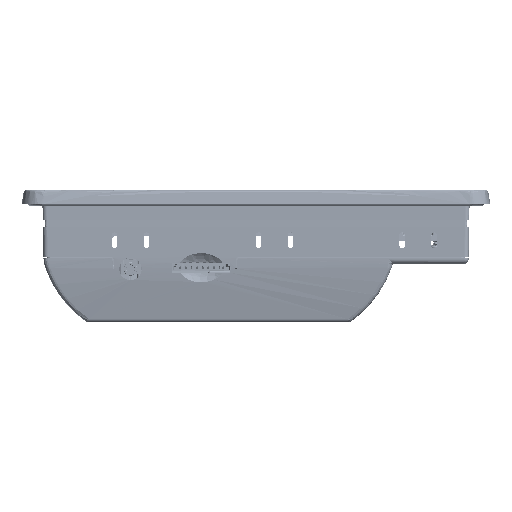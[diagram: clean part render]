
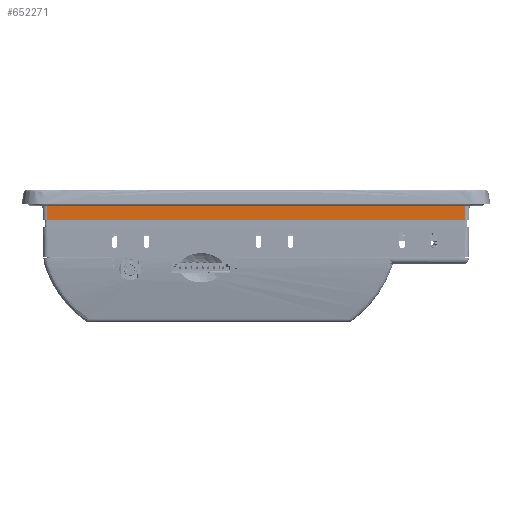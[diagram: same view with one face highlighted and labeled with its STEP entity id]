
A CAD part, left-side view. The second image highlights one B-rep face of the part: STEP entity #652271.
In plain terms, the highlighted planar face has unit normal (-1, 0, -0.018) as drawn and (-1, -0.017, 0) by its records, which use the part's own axes.
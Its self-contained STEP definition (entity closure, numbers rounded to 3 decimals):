
#20107 = VECTOR ( 'NONE', #130805, 1000. ) ;
#43432 = PLANE ( 'NONE',  #686630 ) ;
#67658 = ORIENTED_EDGE ( 'NONE', *, *, #434601, .T. ) ;
#77361 = CARTESIAN_POINT ( 'NONE',  ( -144.41, -8.254, -93.832 ) ) ;
#78576 = EDGE_LOOP ( 'NONE', ( #534410, #78674, #67658, #338061 ) ) ;
#78674 = ORIENTED_EDGE ( 'NONE', *, *, #575069, .T. ) ;
#78769 = VECTOR ( 'NONE', #333537, 1000. ) ;
#118314 = VERTEX_POINT ( 'NONE', #212642 ) ;
#130805 = DIRECTION ( 'NONE',  ( 0., 0., 1. ) ) ;
#162410 = EDGE_CURVE ( 'NONE', #601777, #402886, #402047, .T. ) ;
#174895 = CARTESIAN_POINT ( 'NONE',  ( -144.519, -1.991, -91.82 ) ) ;
#175219 = LINE ( 'NONE', #631495, #458433 ) ;
#178235 = LINE ( 'NONE', #77361, #20107 ) ;
#204057 = DIRECTION ( 'NONE',  ( 0.017, -1., 0. ) ) ;
#204995 = DIRECTION ( 'NONE',  ( 0., 0., -1. ) ) ;
#212642 = CARTESIAN_POINT ( 'NONE',  ( -144.41, -8.254, -91.71 ) ) ;
#219723 = CARTESIAN_POINT ( 'NONE',  ( -144.519, -1.991, 94.224 ) ) ;
#256811 = DIRECTION ( 'NONE',  ( -0.017, 1., 0.017 ) ) ;
#279903 = CARTESIAN_POINT ( 'NONE',  ( -144.533, -1.219, -91.833 ) ) ;
#308791 = CARTESIAN_POINT ( 'NONE',  ( -144.532, -1.254, -93.832 ) ) ;
#322870 = CARTESIAN_POINT ( 'NONE',  ( -144.41, -8.254, 94.115 ) ) ;
#333537 = DIRECTION ( 'NONE',  ( 0.017, -1., 0.017 ) ) ;
#338061 = ORIENTED_EDGE ( 'NONE', *, *, #162410, .T. ) ;
#402047 = LINE ( 'NONE', #577321, #560288 ) ;
#402886 = VERTEX_POINT ( 'NONE', #174895 ) ;
#419129 = FACE_OUTER_BOUND ( 'NONE', #78576, .T. ) ;
#434601 = EDGE_CURVE ( 'NONE', #639622, #601777, #175219, .T. ) ;
#458433 = VECTOR ( 'NONE', #256811, 1000. ) ;
#503428 = LINE ( 'NONE', #279903, #78769 ) ;
#522869 = DIRECTION ( 'NONE',  ( -1., -0.017, 0. ) ) ;
#534410 = ORIENTED_EDGE ( 'NONE', *, *, #593445, .T. ) ;
#560288 = VECTOR ( 'NONE', #204995, 1000. ) ;
#575069 = EDGE_CURVE ( 'NONE', #118314, #639622, #178235, .T. ) ;
#577321 = CARTESIAN_POINT ( 'NONE',  ( -144.519, -1.991, -91.833 ) ) ;
#593445 = EDGE_CURVE ( 'NONE', #402886, #118314, #503428, .T. ) ;
#601777 = VERTEX_POINT ( 'NONE', #219723 ) ;
#631495 = CARTESIAN_POINT ( 'NONE',  ( -144.475, -4.535, 94.18 ) ) ;
#639622 = VERTEX_POINT ( 'NONE', #322870 ) ;
#652271 = ADVANCED_FACE ( 'NONE', ( #419129 ), #43432, .T. ) ;
#686630 = AXIS2_PLACEMENT_3D ( 'NONE', #308791, #522869, #204057 ) ;
